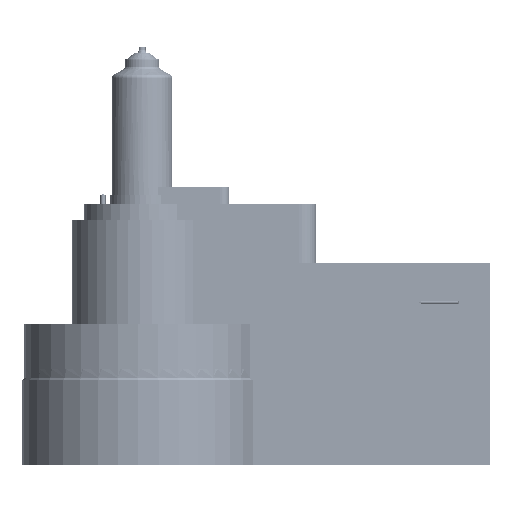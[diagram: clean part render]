
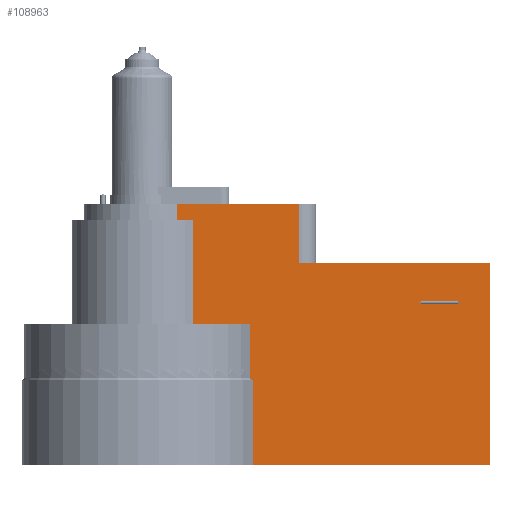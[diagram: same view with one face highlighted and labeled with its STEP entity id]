
A CAD part, front view. The second image highlights one B-rep face of the part: STEP entity #108963.
In plain terms, the highlighted planar face has unit normal (0, -1, 0).
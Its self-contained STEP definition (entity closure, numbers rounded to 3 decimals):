
#536 = EDGE_CURVE ( 'NONE', #65595, #77194, #58008, .T. ) ;
#761 = CARTESIAN_POINT ( 'NONE',  ( 0., -27., -65. ) ) ;
#1167 = CARTESIAN_POINT ( 'NONE',  ( 62.766, -27., -97. ) ) ;
#1190 = CARTESIAN_POINT ( 'NONE',  ( 0., -27., -97. ) ) ;
#2586 = VERTEX_POINT ( 'NONE', #93823 ) ;
#3853 = EDGE_CURVE ( 'NONE', #5088, #51028, #4921, .T. ) ;
#4921 = LINE ( 'NONE', #761, #55888 ) ;
#5023 = VECTOR ( 'NONE', #117642, 1000. ) ;
#5088 = VERTEX_POINT ( 'NONE', #78401 ) ;
#5753 = VECTOR ( 'NONE', #43260, 1000. ) ;
#8209 = LINE ( 'NONE', #17382, #9919 ) ;
#8236 = CARTESIAN_POINT ( 'NONE',  ( 0., -27., -5. ) ) ;
#8838 = CARTESIAN_POINT ( 'NONE',  ( 90., -27., 4. ) ) ;
#9302 = ORIENTED_EDGE ( 'NONE', *, *, #127865, .T. ) ;
#9805 = B_SPLINE_CURVE_WITH_KNOTS ( 'NONE', 3,
 ( #25869, #36531, #46354, #66827 ),
 .UNSPECIFIED., .F., .F.,
 ( 4, 4 ),
 ( 0., 0.001 ),
 .UNSPECIFIED. ) ;
#9919 = VECTOR ( 'NONE', #120216, 1000. ) ;
#13067 = LINE ( 'NONE', #26787, #5023 ) ;
#15791 = DIRECTION ( 'NONE',  ( 1., 0., 0. ) ) ;
#17382 = CARTESIAN_POINT ( 'NONE',  ( 19.831, -27., 51.716 ) ) ;
#20927 = VERTEX_POINT ( 'NONE', #108690 ) ;
#21704 = DIRECTION ( 'NONE',  ( -1., 0., 0. ) ) ;
#25869 = CARTESIAN_POINT ( 'NONE',  ( 62.137, -27., -96. ) ) ;
#26787 = CARTESIAN_POINT ( 'NONE',  ( 200., -27., -146. ) ) ;
#28626 = EDGE_CURVE ( 'NONE', #97972, #84174, #101021, .T. ) ;
#29108 = LINE ( 'NONE', #8838, #41887 ) ;
#29612 = EDGE_CURVE ( 'NONE', #128130, #87330, #43544, .T. ) ;
#29821 = CARTESIAN_POINT ( 'NONE',  ( 63.498, -27., 51.716 ) ) ;
#32743 = EDGE_CURVE ( 'NONE', #68735, #117071, #13067, .T. ) ;
#32997 = DIRECTION ( 'NONE',  ( 0., 0., 1. ) ) ;
#36126 = ORIENTED_EDGE ( 'NONE', *, *, #126921, .F. ) ;
#36531 = CARTESIAN_POINT ( 'NONE',  ( 62.347, -27., -96.333 ) ) ;
#37268 = EDGE_CURVE ( 'NONE', #103194, #5088, #72749, .T. ) ;
#39981 = DIRECTION ( 'NONE',  ( 0., 0., 1. ) ) ;
#41887 = VECTOR ( 'NONE', #39981, 1000. ) ;
#43260 = DIRECTION ( 'NONE',  ( -1., 0., 0. ) ) ;
#43544 = LINE ( 'NONE', #8236, #100898 ) ;
#44217 = ORIENTED_EDGE ( 'NONE', *, *, #113335, .F. ) ;
#46354 = CARTESIAN_POINT ( 'NONE',  ( 62.557, -27., -96.667 ) ) ;
#46714 = CARTESIAN_POINT ( 'NONE',  ( 29.513, -27., -65. ) ) ;
#50343 = LINE ( 'NONE', #84218, #5753 ) ;
#51028 = VERTEX_POINT ( 'NONE', #46714 ) ;
#53233 = ORIENTED_EDGE ( 'NONE', *, *, #28626, .F. ) ;
#54912 = VECTOR ( 'NONE', #77784, 1000. ) ;
#55888 = VECTOR ( 'NONE', #100939, 1000. ) ;
#57716 = EDGE_CURVE ( 'NONE', #97972, #2586, #29108, .T. ) ;
#58008 = LINE ( 'NONE', #1190, #113785 ) ;
#58790 = ORIENTED_EDGE ( 'NONE', *, *, #536, .F. ) ;
#59088 = DIRECTION ( 'NONE',  ( 0., 0., 1. ) ) ;
#60274 = ORIENTED_EDGE ( 'NONE', *, *, #32743, .F. ) ;
#60462 = ORIENTED_EDGE ( 'NONE', *, *, #3853, .F. ) ;
#60537 = DIRECTION ( 'NONE',  ( 0., 0., 1. ) ) ;
#62875 = CARTESIAN_POINT ( 'NONE',  ( 63.498, -27., -97. ) ) ;
#63452 = EDGE_LOOP ( 'NONE', ( #53233, #127837, #109408, #98882, #111646, #36126, #60462, #85263, #9302, #58790, #108640, #60274, #44217 ) ) ;
#63457 = EDGE_CURVE ( 'NONE', #2586, #20927, #50343, .T. ) ;
#64643 = CARTESIAN_POINT ( 'NONE',  ( 90., -27., -30. ) ) ;
#65595 = VERTEX_POINT ( 'NONE', #62875 ) ;
#66827 = CARTESIAN_POINT ( 'NONE',  ( 62.766, -27., -97. ) ) ;
#68735 = VERTEX_POINT ( 'NONE', #88658 ) ;
#68849 = CARTESIAN_POINT ( 'NONE',  ( 29.513, -27., 51.716 ) ) ;
#71570 = VECTOR ( 'NONE', #113403, 1000. ) ;
#72749 = LINE ( 'NONE', #100474, #109364 ) ;
#75618 = VECTOR ( 'NONE', #15791, 1000. ) ;
#76891 = AXIS2_PLACEMENT_3D ( 'NONE', #114935, #94812, #32997 ) ;
#77194 = VERTEX_POINT ( 'NONE', #1167 ) ;
#77784 = DIRECTION ( 'NONE',  ( 0., 0., 1. ) ) ;
#78401 = CARTESIAN_POINT ( 'NONE',  ( 62.137, -27., -65. ) ) ;
#84174 = VERTEX_POINT ( 'NONE', #100402 ) ;
#84218 = CARTESIAN_POINT ( 'NONE',  ( 200., -27., 4. ) ) ;
#85263 = ORIENTED_EDGE ( 'NONE', *, *, #37268, .F. ) ;
#85559 = CARTESIAN_POINT ( 'NONE',  ( 62.137, -27., -96. ) ) ;
#87330 = VERTEX_POINT ( 'NONE', #123072 ) ;
#88658 = CARTESIAN_POINT ( 'NONE',  ( 200., -27., -146. ) ) ;
#89149 = LINE ( 'NONE', #29821, #130595 ) ;
#89835 = EDGE_CURVE ( 'NONE', #87330, #20927, #8209, .T. ) ;
#92367 = CARTESIAN_POINT ( 'NONE',  ( 29.513, -27., -5. ) ) ;
#93266 = FACE_OUTER_BOUND ( 'NONE', #63452, .T. ) ;
#93823 = CARTESIAN_POINT ( 'NONE',  ( 90., -27., 4. ) ) ;
#94812 = DIRECTION ( 'NONE',  ( 0., 1., 0. ) ) ;
#97972 = VERTEX_POINT ( 'NONE', #64643 ) ;
#98882 = ORIENTED_EDGE ( 'NONE', *, *, #89835, .F. ) ;
#100402 = CARTESIAN_POINT ( 'NONE',  ( 200., -27., -30. ) ) ;
#100474 = CARTESIAN_POINT ( 'NONE',  ( 62.137, -27., 51.716 ) ) ;
#100898 = VECTOR ( 'NONE', #131623, 1000. ) ;
#100939 = DIRECTION ( 'NONE',  ( -1., 0., 0. ) ) ;
#101021 = LINE ( 'NONE', #116421, #75618 ) ;
#102257 = CARTESIAN_POINT ( 'NONE',  ( 200., -27., 4. ) ) ;
#102713 = LINE ( 'NONE', #68849, #54912 ) ;
#103194 = VERTEX_POINT ( 'NONE', #85559 ) ;
#108228 = LINE ( 'NONE', #102257, #71570 ) ;
#108640 = ORIENTED_EDGE ( 'NONE', *, *, #130759, .F. ) ;
#108690 = CARTESIAN_POINT ( 'NONE',  ( 19.831, -27., 4. ) ) ;
#108963 = ADVANCED_FACE ( 'NONE', ( #93266 ), #124332, .F. ) ;
#109364 = VECTOR ( 'NONE', #59088, 1000. ) ;
#109408 = ORIENTED_EDGE ( 'NONE', *, *, #63457, .T. ) ;
#111646 = ORIENTED_EDGE ( 'NONE', *, *, #29612, .F. ) ;
#113335 = EDGE_CURVE ( 'NONE', #84174, #68735, #108228, .T. ) ;
#113403 = DIRECTION ( 'NONE',  ( 0., 0., -1. ) ) ;
#113785 = VECTOR ( 'NONE', #21704, 1000. ) ;
#114935 = CARTESIAN_POINT ( 'NONE',  ( 200., -27., 4. ) ) ;
#116421 = CARTESIAN_POINT ( 'NONE',  ( 200., -27., -30. ) ) ;
#117071 = VERTEX_POINT ( 'NONE', #127856 ) ;
#117642 = DIRECTION ( 'NONE',  ( -1., 0., 0. ) ) ;
#120216 = DIRECTION ( 'NONE',  ( 0., 0., 1. ) ) ;
#123072 = CARTESIAN_POINT ( 'NONE',  ( 19.831, -27., -5. ) ) ;
#124332 = PLANE ( 'NONE',  #76891 ) ;
#126921 = EDGE_CURVE ( 'NONE', #51028, #128130, #102713, .T. ) ;
#127837 = ORIENTED_EDGE ( 'NONE', *, *, #57716, .T. ) ;
#127856 = CARTESIAN_POINT ( 'NONE',  ( 63.498, -27., -146. ) ) ;
#127865 = EDGE_CURVE ( 'NONE', #103194, #77194, #9805, .T. ) ;
#128130 = VERTEX_POINT ( 'NONE', #92367 ) ;
#130595 = VECTOR ( 'NONE', #60537, 1000. ) ;
#130759 = EDGE_CURVE ( 'NONE', #117071, #65595, #89149, .T. ) ;
#131623 = DIRECTION ( 'NONE',  ( -1., 0., 0. ) ) ;
